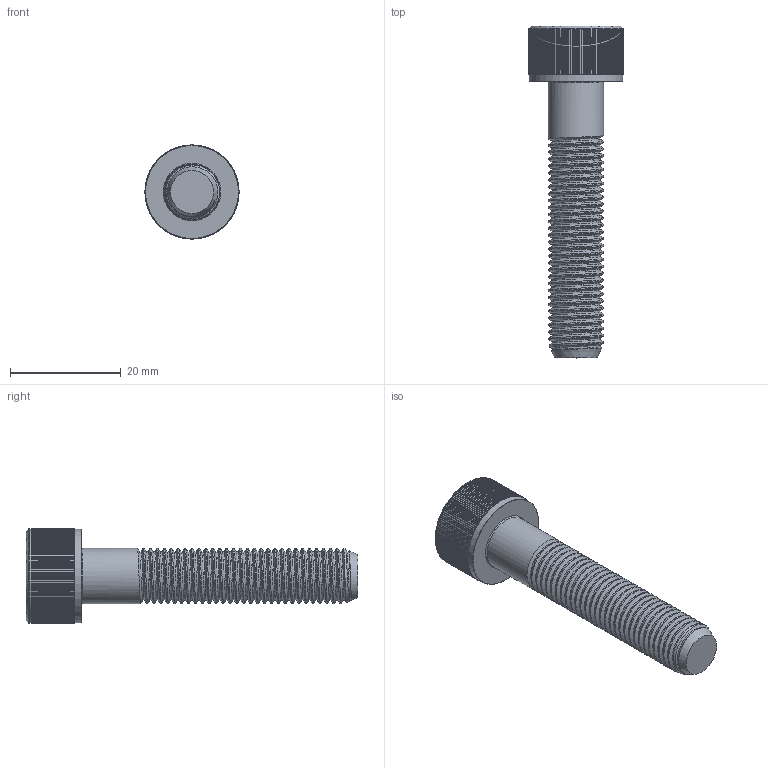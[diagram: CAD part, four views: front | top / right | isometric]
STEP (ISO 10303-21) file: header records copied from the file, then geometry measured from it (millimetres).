
FILE_DESCRIPTION(/* description */ (''),/* implementation_level */ '2;1');
FILE_NAME(/* name */ 'M10_bolt.stp',/* time_stamp */ '2017-03-05T13:21:56+01:00',/* author */ (''),/* organization */ (''),/* preprocessor_version */ 'ST-DEVELOPER v11',/* originating_system */ 'SIEMENS PLM Software NX 7.0',/* authorisation */ '');
FILE_SCHEMA (('AUTOMOTIVE_DESIGN { 1 0 10303 214 1 1 1 1 }'));
Length unit declared in the file: millimetre
Products named in the file (1): Andr4103ccpo
Bounding box: 17 x 60 x 17 mm (x, y, z)
Volume: 5450.9 mm3; surface area: 3215.7 mm2
Topology: 1 solids, 1 shells, 545 faces, 1606 edges, 1066 vertices
Faces by surface type: plane 498, cylinder 40, cone 5, bspline 2
Full cylindrical faces by diameter (mm): 10 x30, 16.9 x1, 17 x1
Entity records: 20338 total; most frequent: CARTESIAN_POINT 6363, ORIENTED_EDGE 3004, DIRECTION 2856, EDGE_CURVE 1502, LINE 1158, VECTOR 1158, VERTEX_POINT 1000, AXIS2_PLACEMENT_3D 849
